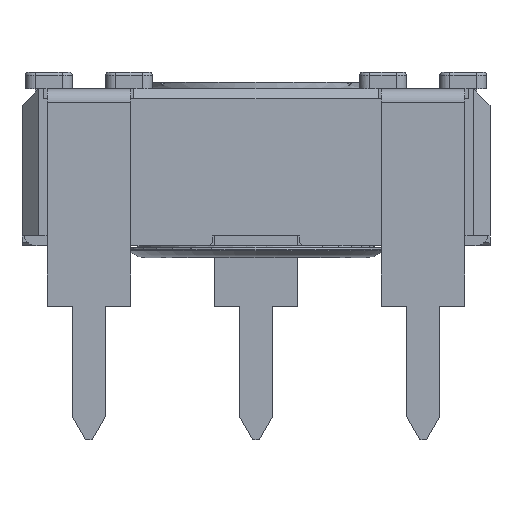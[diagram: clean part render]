
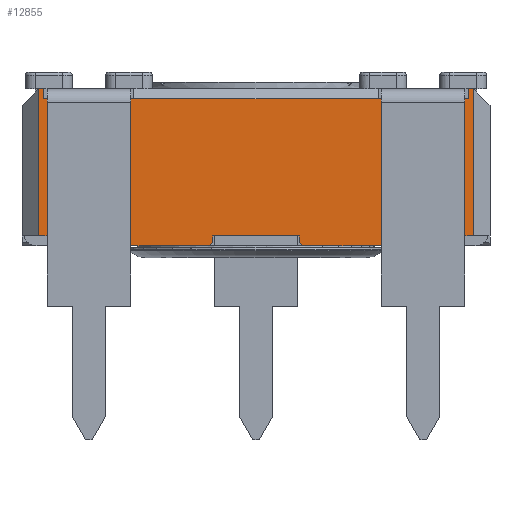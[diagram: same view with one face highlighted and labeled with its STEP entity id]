
A CAD part, front view. The second image highlights one B-rep face of the part: STEP entity #12855.
In plain terms, the highlighted planar face has unit normal (0, -1, 0).
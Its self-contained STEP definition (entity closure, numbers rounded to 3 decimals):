
#970=FACE_OUTER_BOUND('',#1656,.T.);
#1656=EDGE_LOOP('',(#10044,#10045,#10046,#10047,#10048,#10049,#10050,#10051,
#10052,#10053,#10054,#10055,#10056,#10057,#10058,#10059,#10060,#10061,#10062,
#10063,#10064,#10065,#10066,#10067,#10068));
#2153=LINE('',#18142,#3639);
#2161=LINE('',#18162,#3647);
#2185=LINE('',#18209,#3671);
#2186=LINE('',#18211,#3672);
#2191=LINE('',#18222,#3677);
#2215=LINE('',#18269,#3701);
#2403=LINE('',#18824,#3889);
#2416=LINE('',#18848,#3902);
#2563=LINE('',#19300,#4049);
#2768=LINE('',#19823,#4254);
#2773=LINE('',#19833,#4259);
#2778=LINE('',#19843,#4264);
#2793=LINE('',#19869,#4279);
#2900=LINE('',#20186,#4386);
#2908=LINE('',#20204,#4394);
#2914=LINE('',#20212,#4400);
#2915=LINE('',#20215,#4401);
#2916=LINE('',#20217,#4402);
#2917=LINE('',#20219,#4403);
#2918=LINE('',#20220,#4404);
#2919=LINE('',#20221,#4405);
#2920=LINE('',#20222,#4406);
#2921=LINE('',#20223,#4407);
#2922=LINE('',#20224,#4408);
#2923=LINE('',#20225,#4409);
#3639=VECTOR('',#14509,10.);
#3647=VECTOR('',#14531,10.);
#3671=VECTOR('',#14557,10.);
#3672=VECTOR('',#14560,10.);
#3677=VECTOR('',#14575,10.);
#3701=VECTOR('',#14601,10.);
#3889=VECTOR('',#15163,10.);
#3902=VECTOR('',#15190,10.);
#4049=VECTOR('',#15573,10.);
#4254=VECTOR('',#15920,10.);
#4259=VECTOR('',#15925,10.);
#4264=VECTOR('',#15930,10.);
#4279=VECTOR('',#15947,10.);
#4386=VECTOR('',#16202,10.);
#4394=VECTOR('',#16214,10.);
#4400=VECTOR('',#16224,10.);
#4401=VECTOR('',#16227,10.);
#4402=VECTOR('',#16228,10.);
#4403=VECTOR('',#16229,10.);
#4404=VECTOR('',#16230,10.);
#4405=VECTOR('',#16231,10.);
#4406=VECTOR('',#16232,10.);
#4407=VECTOR('',#16233,10.);
#4408=VECTOR('',#16234,10.);
#4409=VECTOR('',#16235,10.);
#5042=VERTEX_POINT('',#17997);
#5048=VERTEX_POINT('',#18014);
#5058=VERTEX_POINT('',#18036);
#5105=VERTEX_POINT('',#18141);
#5110=VERTEX_POINT('',#18161);
#5132=VERTEX_POINT('',#18207);
#5133=VERTEX_POINT('',#18221);
#5155=VERTEX_POINT('',#18267);
#5334=VERTEX_POINT('',#18821);
#5335=VERTEX_POINT('',#18823);
#5338=VERTEX_POINT('',#18845);
#5339=VERTEX_POINT('',#18847);
#5465=VERTEX_POINT('',#19296);
#5617=VERTEX_POINT('',#19822);
#5621=VERTEX_POINT('',#19830);
#5622=VERTEX_POINT('',#19832);
#5626=VERTEX_POINT('',#19840);
#5627=VERTEX_POINT('',#19842);
#5704=VERTEX_POINT('',#20184);
#5705=VERTEX_POINT('',#20185);
#5712=VERTEX_POINT('',#20202);
#5713=VERTEX_POINT('',#20203);
#5714=VERTEX_POINT('',#20214);
#5715=VERTEX_POINT('',#20216);
#5716=VERTEX_POINT('',#20218);
#6353=EDGE_CURVE('',#5105,#5042,#2153,.T.);
#6363=EDGE_CURVE('',#5110,#5105,#2161,.T.);
#6387=EDGE_CURVE('',#5042,#5132,#2185,.T.);
#6388=EDGE_CURVE('',#5048,#5058,#2186,.T.);
#6393=EDGE_CURVE('',#5133,#5048,#2191,.T.);
#6417=EDGE_CURVE('',#5058,#5155,#2215,.T.);
#6696=EDGE_CURVE('',#5335,#5334,#2403,.T.);
#6709=EDGE_CURVE('',#5339,#5338,#2416,.T.);
#6905=EDGE_CURVE('',#5339,#5465,#2563,.T.);
#7131=EDGE_CURVE('',#5617,#5465,#2768,.T.);
#7136=EDGE_CURVE('',#5622,#5621,#2773,.T.);
#7141=EDGE_CURVE('',#5627,#5626,#2778,.T.);
#7156=EDGE_CURVE('',#5627,#5334,#2793,.T.);
#7282=EDGE_CURVE('',#5704,#5705,#2900,.T.);
#7290=EDGE_CURVE('',#5712,#5713,#2908,.T.);
#7296=EDGE_CURVE('',#5622,#5704,#2914,.T.);
#7297=EDGE_CURVE('',#5621,#5714,#2915,.T.);
#7298=EDGE_CURVE('',#5715,#5714,#2916,.T.);
#7299=EDGE_CURVE('',#5715,#5716,#2917,.T.);
#7300=EDGE_CURVE('',#5716,#5617,#2918,.T.);
#7301=EDGE_CURVE('',#5338,#5133,#2919,.T.);
#7302=EDGE_CURVE('',#5110,#5155,#2920,.T.);
#7303=EDGE_CURVE('',#5132,#5335,#2921,.T.);
#7304=EDGE_CURVE('',#5626,#5713,#2922,.T.);
#7305=EDGE_CURVE('',#5712,#5705,#2923,.T.);
#10044=ORIENTED_EDGE('',*,*,#7282,.F.);
#10045=ORIENTED_EDGE('',*,*,#7296,.F.);
#10046=ORIENTED_EDGE('',*,*,#7136,.T.);
#10047=ORIENTED_EDGE('',*,*,#7297,.T.);
#10048=ORIENTED_EDGE('',*,*,#7298,.F.);
#10049=ORIENTED_EDGE('',*,*,#7299,.T.);
#10050=ORIENTED_EDGE('',*,*,#7300,.T.);
#10051=ORIENTED_EDGE('',*,*,#7131,.T.);
#10052=ORIENTED_EDGE('',*,*,#6905,.F.);
#10053=ORIENTED_EDGE('',*,*,#6709,.T.);
#10054=ORIENTED_EDGE('',*,*,#7301,.T.);
#10055=ORIENTED_EDGE('',*,*,#6393,.T.);
#10056=ORIENTED_EDGE('',*,*,#6388,.T.);
#10057=ORIENTED_EDGE('',*,*,#6417,.T.);
#10058=ORIENTED_EDGE('',*,*,#7302,.F.);
#10059=ORIENTED_EDGE('',*,*,#6363,.T.);
#10060=ORIENTED_EDGE('',*,*,#6353,.T.);
#10061=ORIENTED_EDGE('',*,*,#6387,.T.);
#10062=ORIENTED_EDGE('',*,*,#7303,.T.);
#10063=ORIENTED_EDGE('',*,*,#6696,.T.);
#10064=ORIENTED_EDGE('',*,*,#7156,.F.);
#10065=ORIENTED_EDGE('',*,*,#7141,.T.);
#10066=ORIENTED_EDGE('',*,*,#7304,.T.);
#10067=ORIENTED_EDGE('',*,*,#7290,.F.);
#10068=ORIENTED_EDGE('',*,*,#7305,.T.);
#12043=PLANE('',#13718);
#12855=ADVANCED_FACE('',(#970),#12043,.T.);
#13718=AXIS2_PLACEMENT_3D('',#20213,#16225,#16226);
#14509=DIRECTION('',(-1.,0.,0.));
#14531=DIRECTION('',(-1.,0.,0.));
#14557=DIRECTION('',(-1.,0.,0.));
#14560=DIRECTION('',(-1.,0.,0.));
#14575=DIRECTION('',(-1.,0.,0.));
#14601=DIRECTION('',(-1.,0.,0.));
#15163=DIRECTION('',(-1.,0.,0.));
#15190=DIRECTION('',(-1.,0.,0.));
#15573=DIRECTION('',(0.,0.,-1.));
#15920=DIRECTION('',(1.,0.,0.));
#15925=DIRECTION('',(1.,0.,0.));
#15930=DIRECTION('',(1.,0.,0.));
#15947=DIRECTION('',(0.,0.,1.));
#16202=DIRECTION('',(-0.707,0.,-0.707));
#16214=DIRECTION('',(-0.707,0.,0.707));
#16224=DIRECTION('',(0.,0.,-1.));
#16225=DIRECTION('center_axis',(0.,-1.,0.));
#16226=DIRECTION('ref_axis',(0.,0.,-1.));
#16227=DIRECTION('',(0.,0.,-1.));
#16228=DIRECTION('',(-0.707,0.,0.707));
#16229=DIRECTION('',(1.,0.,0.));
#16230=DIRECTION('',(0.,0.,1.));
#16231=DIRECTION('',(0.,0.,-1.));
#16232=DIRECTION('',(1.,0.,0.));
#16233=DIRECTION('',(0.,0.,1.));
#16234=DIRECTION('',(0.,0.,-1.));
#16235=DIRECTION('',(1.,0.,0.));
#17997=CARTESIAN_POINT('',(-13.717,-9.898,4.1));
#18014=CARTESIAN_POINT('',(-1.217,-9.898,4.1));
#18036=CARTESIAN_POINT('',(-3.717,-9.898,4.1));
#18141=CARTESIAN_POINT('',(-11.217,-9.898,4.1));
#18142=CARTESIAN_POINT('',(-3.944,-9.898,4.1));
#18161=CARTESIAN_POINT('',(-11.117,-9.898,4.1));
#18162=CARTESIAN_POINT('',(-3.944,-9.898,4.1));
#18207=CARTESIAN_POINT('',(-13.817,-9.898,4.1));
#18209=CARTESIAN_POINT('',(-3.944,-9.898,4.1));
#18211=CARTESIAN_POINT('',(-1.862,-9.898,4.1));
#18221=CARTESIAN_POINT('',(-1.117,-9.898,4.1));
#18222=CARTESIAN_POINT('',(-1.862,-9.898,4.1));
#18267=CARTESIAN_POINT('',(-3.817,-9.898,4.1));
#18269=CARTESIAN_POINT('',(-1.862,-9.898,4.1));
#18821=CARTESIAN_POINT('',(-13.967,-9.898,4.4));
#18823=CARTESIAN_POINT('',(-13.817,-9.898,4.4));
#18824=CARTESIAN_POINT('',(-14.467,-9.898,4.4));
#18845=CARTESIAN_POINT('',(-1.117,-9.898,4.4));
#18847=CARTESIAN_POINT('',(-0.967,-9.898,4.4));
#18848=CARTESIAN_POINT('',(-14.467,-9.898,4.4));
#19296=CARTESIAN_POINT('',(-0.967,-9.898,0.));
#19300=CARTESIAN_POINT('',(-0.967,-9.898,0.));
#19822=CARTESIAN_POINT('',(-1.467,-9.898,0.));
#19823=CARTESIAN_POINT('',(-0.646,-9.898,0.));
#19830=CARTESIAN_POINT('',(-6.167,-9.898,0.));
#19832=CARTESIAN_POINT('',(-8.767,-9.898,0.));
#19833=CARTESIAN_POINT('',(-14.467,-9.898,0.));
#19840=CARTESIAN_POINT('',(-13.467,-9.898,0.));
#19842=CARTESIAN_POINT('',(-13.967,-9.898,0.));
#19843=CARTESIAN_POINT('',(-7.245,-9.898,0.));
#19869=CARTESIAN_POINT('',(-13.967,-9.898,0.));
#20184=CARTESIAN_POINT('',(-8.767,-9.898,-0.2));
#20185=CARTESIAN_POINT('',(-8.867,-9.898,-0.3));
#20186=CARTESIAN_POINT('',(-6.667,-9.898,1.9));
#20202=CARTESIAN_POINT('',(-13.367,-9.898,-0.3));
#20203=CARTESIAN_POINT('',(-13.467,-9.898,-0.2));
#20204=CARTESIAN_POINT('',(-10.242,-9.898,-3.425));
#20212=CARTESIAN_POINT('',(-8.767,-9.898,0.));
#20213=CARTESIAN_POINT('Origin',(-0.467,-9.898,0.));
#20214=CARTESIAN_POINT('',(-6.167,-9.898,-0.2));
#20215=CARTESIAN_POINT('',(-6.167,-9.898,0.));
#20216=CARTESIAN_POINT('',(-6.067,-9.898,-0.3));
#20217=CARTESIAN_POINT('',(-4.767,-9.898,-1.6));
#20218=CARTESIAN_POINT('',(-1.467,-9.898,-0.3));
#20219=CARTESIAN_POINT('',(-0.467,-9.898,-0.3));
#20220=CARTESIAN_POINT('',(-1.467,-9.898,-0.15));
#20221=CARTESIAN_POINT('',(-1.117,-9.898,2.2));
#20222=CARTESIAN_POINT('',(-3.967,-9.898,4.1));
#20223=CARTESIAN_POINT('',(-13.817,-9.898,2.2));
#20224=CARTESIAN_POINT('',(-13.467,-9.898,-0.15));
#20225=CARTESIAN_POINT('',(-0.467,-9.898,-0.3));
